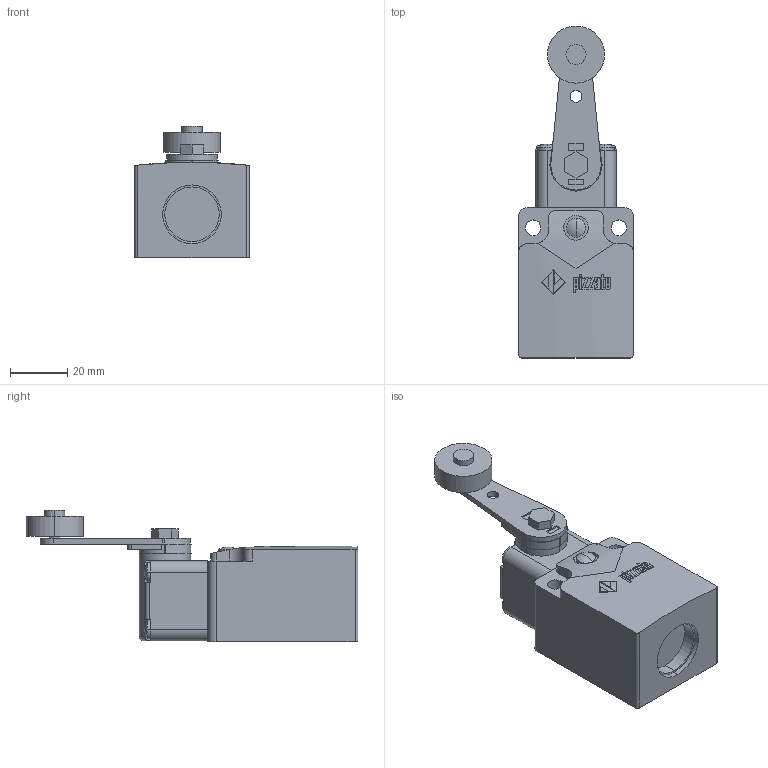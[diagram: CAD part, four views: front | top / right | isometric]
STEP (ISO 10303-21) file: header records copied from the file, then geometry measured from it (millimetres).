
FILE_DESCRIPTION (( 'STEP AP214' ), '1' );
FILE_NAME ('ZF_STEP_FC_x52.step', '2015-05-14T14:13:42', ( 'utente' ), ( 'Microsoft' ), 'SwSTEP 2.0', 'SolidWorks 2014', '' );
FILE_SCHEMA (( 'AUTOMOTIVE_DESIGN' ));
Length unit declared in the file: millimetre
Products named in the file (8): ZF_STEP_VF_T52; ZF_STEP_VF_L52_A10; Pizzato_L52; Vite_leve_pesanti; Pizzato_supporto-leva_serie_pesanti_262; Pizzato_Supporto_T58; Pizzato_Custodia_FC; ZF_STEP_FC_x52
Assembly tree (7 placements, depth 4):
  ZF_STEP_FC_x52
    Pizzato_Custodia_FC
    ZF_STEP_VF_T52
      Pizzato_Supporto_T58
      ZF_STEP_VF_L52_A10
        Pizzato_supporto-leva_serie_pesanti_262
        Vite_leve_pesanti
        Pizzato_L52
Bounding box: 40 x 116.1 x 45.95 mm (x, y, z)
Volume: 87139.8 mm3; surface area: 21671.9 mm2
Topology: 5 solids, 5 shells, 779 faces, 2157 edges, 1437 vertices
Faces by surface type: plane 410, cylinder 260, bspline 97, sphere 10, torus 2
Entity records: 30344 total; most frequent: CARTESIAN_POINT 10289, ORIENTED_EDGE 4314, DIRECTION 3875, EDGE_CURVE 2157, VERTEX_POINT 1437, LINE 1331, VECTOR 1331, AXIS2_PLACEMENT_3D 1272
